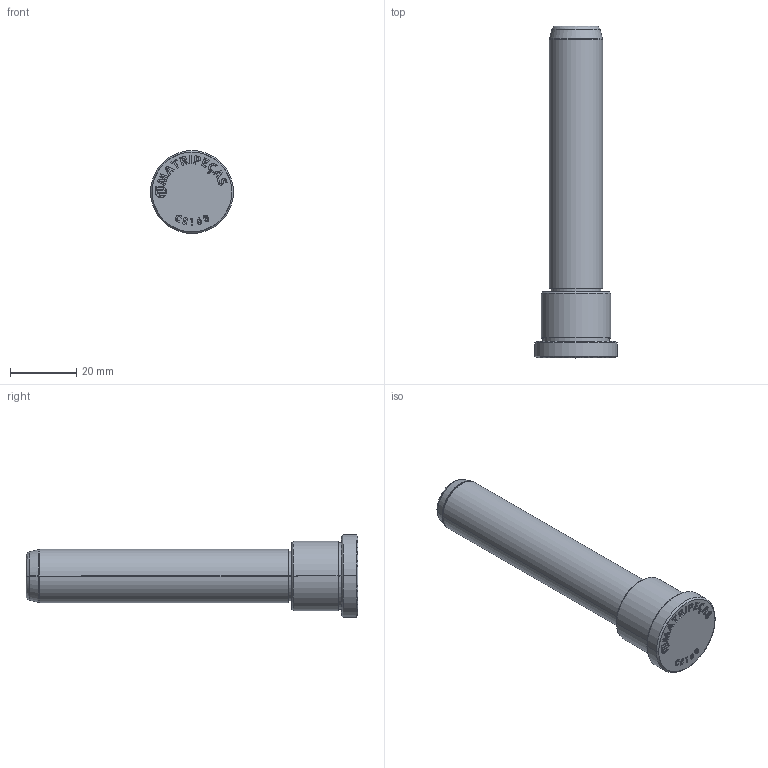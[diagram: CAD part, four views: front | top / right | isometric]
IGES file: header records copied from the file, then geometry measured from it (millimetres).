
Start section: SolidWorks IGES file using analytic representation for surfaces
Global section: file name: D:\Cleonir_particular\Matripeças\Colunas Conjunto Extrator\CE163.IGS; native system: SolidWorks 2013; preprocessor: SolidWorks 2013; author: Cleonir; date: 130307.103843; units: millimetre
Bounding box: 25 x 100 x 25 mm (x, y, z)
Surface area: 6414 mm2 (no closed solid volume)
Topology: 0 solids, 0 shells, 268 faces, 3452 edges, 3452 vertices
Faces by surface type: bspline 239, revolution 29
